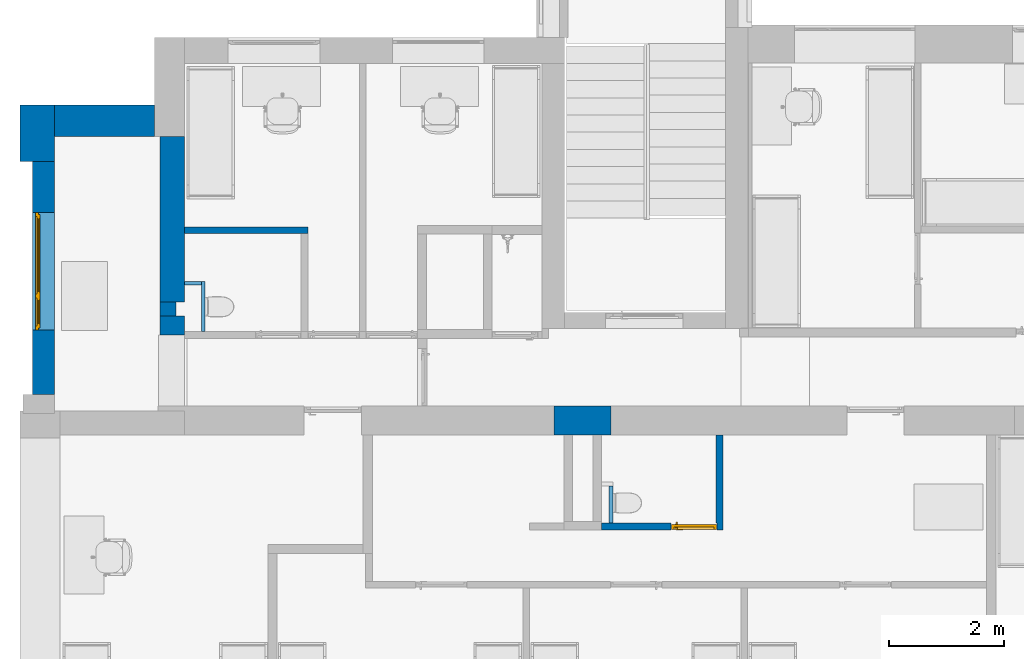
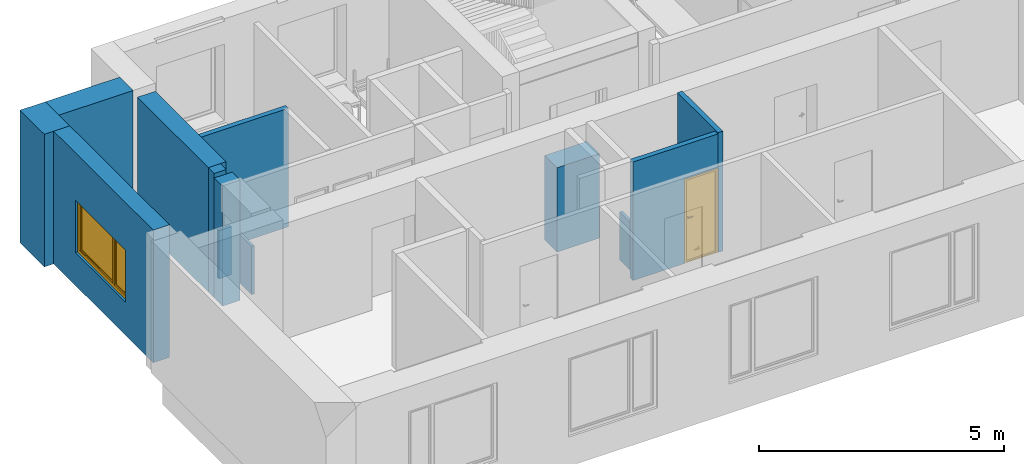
# One storey, part 6 of 46: 13 walls, 1 door, 1 window, 3 openings.
"""IFC2X3 building model written with IfcOpenShell, lengths in millimetres."""

from ifc_helpers import new_model, entity, si_unit, converted_unit, derived_unit, direction, frame, frame_2d, origin, place, context, subcontext, project, spatial, rectangle, extrude, faceted_brep, source, transform, mapped, material, material_list, layer, layer_set, layer_usage, type_object, type_shapes, element, fill, save


model = new_model("IFC2X3")

# Units and contexts
model_context = context("Model", 3, precision=0.01, world=origin(), true_north=direction((6.12303176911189e-17, 1.0)))
body_context = subcontext(model_context, "Body", "Model", "MODEL_VIEW")
ifc_project = project(units=[si_unit("LENGTHUNIT", "METRE", prefix="MILLI"), si_unit("AREAUNIT", "SQUARE_METRE"), si_unit("VOLUMEUNIT", "CUBIC_METRE"), converted_unit("PLANEANGLEUNIT", "DEGREE", entity("IfcRatioMeasure", 0.0174532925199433), si_unit("PLANEANGLEUNIT", "RADIAN"), dimensions=[0, 0, 0, 0, 0, 0, 0]), si_unit("MASSUNIT", "GRAM", prefix="KILO"), derived_unit("MASSDENSITYUNIT", [(si_unit("MASSUNIT", "GRAM", prefix="KILO"), 1), (si_unit("LENGTHUNIT", "METRE"), -3)]), si_unit("TIMEUNIT", "SECOND"), si_unit("FREQUENCYUNIT", "HERTZ"), si_unit("THERMODYNAMICTEMPERATUREUNIT", "DEGREE_CELSIUS"), derived_unit("THERMALTRANSMITTANCEUNIT", [(si_unit("MASSUNIT", "GRAM", prefix="KILO"), 1), (si_unit("THERMODYNAMICTEMPERATUREUNIT", "KELVIN"), -1), (si_unit("TIMEUNIT", "SECOND"), -3)]), derived_unit("VOLUMETRICFLOWRATEUNIT", [(si_unit("LENGTHUNIT", "METRE"), 3), (si_unit("TIMEUNIT", "SECOND"), -1)]), si_unit("ELECTRICCURRENTUNIT", "AMPERE"), si_unit("ELECTRICVOLTAGEUNIT", "VOLT"), si_unit("POWERUNIT", "WATT"), si_unit("FORCEUNIT", "NEWTON", prefix="KILO"), si_unit("ILLUMINANCEUNIT", "LUX"), si_unit("LUMINOUSFLUXUNIT", "LUMEN"), si_unit("LUMINOUSINTENSITYUNIT", "CANDELA"), derived_unit("USERDEFINED", [(si_unit("MASSUNIT", "GRAM", prefix="KILO"), -1), (si_unit("LENGTHUNIT", "METRE"), -2), (si_unit("TIMEUNIT", "SECOND"), 3), (si_unit("LUMINOUSFLUXUNIT", "LUMEN"), 1)]), derived_unit("LINEARVELOCITYUNIT", [(si_unit("LENGTHUNIT", "METRE"), 1), (si_unit("TIMEUNIT", "SECOND"), -1)]), si_unit("PRESSUREUNIT", "PASCAL"), derived_unit("USERDEFINED", [(si_unit("LENGTHUNIT", "METRE"), -2), (si_unit("MASSUNIT", "GRAM", prefix="KILO"), 1), (si_unit("TIMEUNIT", "SECOND"), -2)]), derived_unit("LINEARFORCEUNIT", [(si_unit("MASSUNIT", "GRAM", prefix="KILO"), 1), (si_unit("LENGTHUNIT", "METRE"), 1), (si_unit("TIMEUNIT", "SECOND"), -2), (si_unit("LENGTHUNIT", "METRE"), -1)]), derived_unit("PLANARFORCEUNIT", [(si_unit("MASSUNIT", "GRAM", prefix="KILO"), 1), (si_unit("LENGTHUNIT", "METRE"), 1), (si_unit("TIMEUNIT", "SECOND"), -2), (si_unit("LENGTHUNIT", "METRE"), -2)])], contexts=[model_context])

# Site, building, storey
site_placement = place(None, origin())
site = spatial("IfcSite", under=ifc_project, at=site_placement, Name="Default", CompositionType="ELEMENT")
building_placement = place(site_placement, origin())
building = spatial("IfcBuilding", under=site, at=building_placement, Name="SMA ARH", CompositionType="ELEMENT")
storey_placement = place(building_placement, origin())
storey = spatial("IfcBuildingStorey", under=building, at=storey_placement, Name="1 Korrus", CompositionType="ELEMENT", Elevation=0.0)

# Walls
ifc_material_1 = material(Name="_ol.olev sein")
ifc_layer_1 = layer(ifc_material_1, 550.0)
ifc_layer_set_1 = layer_set([ifc_layer_1], Name="Basic Wall:Generic - 550mm")
ifc_layer_usage_1 = layer_usage(ifc_layer_set_1, "AXIS2", "NEGATIVE", 275.0)
wall_type_1 = type_object("IfcWallType", Name="Basic Wall:Generic - 550mm", PredefinedType="STANDARD", material=ifc_layer_set_1)
wall_1_placement = place(storey_placement, frame((-100.0, 11495.0, 0.0)))
element("IfcWallStandardCase", 1, at=wall_1_placement, inside=storey, type_object=wall_type_1, material=ifc_layer_usage_1, Name="Basic Wall:Generic - 550mm", ObjectType="Basic Wall:Generic - 550mm", context=body_context, shape_type="SweptSolid", body=[
    extrude(rectangle(XDim=1745.00000000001, YDim=550.000000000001, at=frame_2d((872.500000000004, -5.6843418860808e-14), x_axis=(-1.0, 0.0))), origin(), (0.0, 0.0, 1.0), 3299.99999999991),
])
ifc_layer_2 = layer(ifc_material_1, 420.0)
ifc_layer_set_2 = layer_set([ifc_layer_2], Name="Basic Wall:Generic - 420mm")
ifc_layer_usage_2 = layer_usage(ifc_layer_set_2, "AXIS2", "NEGATIVE", 210.0)
wall_type_2 = type_object("IfcWallType", Name="Basic Wall:Generic - 420mm", PredefinedType="STANDARD", material=ifc_layer_set_2)
wall_2_placement = place(storey_placement, frame((1955.0, 11220.0, 0.0), z_axis=(0.0, 0.0, 1.0), x_axis=(0.0, -1.0, 0.0)))
element("IfcWallStandardCase", 2, at=wall_2_placement, inside=storey, type_object=wall_type_2, material=ifc_layer_usage_2, Name="Basic Wall:Generic - 420mm", ObjectType="Basic Wall:Generic - 420mm", context=body_context, shape_type="SweptSolid", body=[
    extrude(rectangle(XDim=2889.99999999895, YDim=420.0, at=frame_2d((1444.99999999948, 2.8421709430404e-14), x_axis=(-1.0, 0.0))), origin(), (0.0, 0.0, 1.0), 3099.99999999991),
])
ifc_layer_usage_3 = layer_usage(ifc_layer_set_2, "AXIS2", "NEGATIVE", 210.0)
wall_3_placement = place(storey_placement, frame((1955.0, 8090.0, 0.0), z_axis=(0.0, 0.0, 1.0), x_axis=(0.0, -1.0, 0.0)))
element("IfcWallStandardCase", 3, at=wall_3_placement, inside=storey, type_object=wall_type_2, material=ifc_layer_usage_3, Name="Basic Wall:Generic - 420mm", ObjectType="Basic Wall:Generic - 420mm", context=body_context, shape_type="SweptSolid", body=[
    extrude(rectangle(XDim=331.999999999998, YDim=420.0, at=frame_2d((165.999999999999, 1.4210854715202e-14), x_axis=(-1.0, 0.0))), origin(), (0.0, 0.0, 1.0), 2989.99999999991),
])
ifc_layer_3 = layer(ifc_material_1, 280.0)
ifc_layer_set_3 = layer_set([ifc_layer_3], Name="Basic Wall:Generic - 280mm")
ifc_layer_usage_4 = layer_usage(ifc_layer_set_3, "AXIS2", "NEGATIVE", 140.0)
wall_type_3 = type_object("IfcWallType", Name="Basic Wall:Generic - 280mm", PredefinedType="STANDARD", material=ifc_layer_set_3)
wall_4_placement = place(storey_placement, frame((1885.0, 8330.0, 0.0), z_axis=(0.0, 0.0, 1.0), x_axis=(0.0, -1.0, 0.0)))
element("IfcWallStandardCase", 4, at=wall_4_placement, inside=storey, type_object=wall_type_3, material=ifc_layer_usage_4, Name="Basic Wall:Generic - 280mm", ObjectType="Basic Wall:Generic - 280mm", context=body_context, shape_type="SweptSolid", body=[
    extrude(rectangle(XDim=240.000000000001, YDim=280.0, at=frame_2d((120.0, -7.105427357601e-14), x_axis=(-1.0, 0.0))), origin(), (0.0, 0.0, 1.0), 3099.99999999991),
])
ifc_layer_4 = layer(ifc_material_1, 600.0)
ifc_layer_set_4 = layer_set([ifc_layer_4], Name="Basic Wall:Generic - 600mm")
ifc_layer_usage_5 = layer_usage(ifc_layer_set_4, "AXIS2", "NEGATIVE", 300.0)
wall_type_4 = type_object("IfcWallType", Name="Basic Wall:Generic - 600mm", PredefinedType="STANDARD", material=ifc_layer_set_4)
wall_5_placement = place(storey_placement, frame((-400.0, 10780.0, 0.0), z_axis=(0.0, 0.0, 1.0), x_axis=(0.0, 1.0, 0.0)))
element("IfcWallStandardCase", 5, at=wall_5_placement, inside=storey, type_object=wall_type_4, material=ifc_layer_usage_5, Name="Basic Wall:Generic - 600mm", ObjectType="Basic Wall:Generic - 600mm", context=body_context, shape_type="SweptSolid", body=[
    extrude(rectangle(XDim=990.0, YDim=600.0, at=frame_2d((495.0, 2.8421709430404e-14), x_axis=(-1.0, 0.0))), origin(), (0.0, 0.0, 1.0), 3299.99999999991),
])

# Wall, opening, window
ifc_layer_5 = layer(ifc_material_1, 380.0)
ifc_layer_set_5 = layer_set([ifc_layer_5], Name="Basic Wall:Generic - 380mm")
ifc_layer_usage_6 = layer_usage(ifc_layer_set_5, "AXIS2", "NEGATIVE", 190.0)
wall_type_5 = type_object("IfcWallType", Name="Basic Wall:Generic - 380mm", PredefinedType="STANDARD", material=ifc_layer_set_5)
wall_6_placement = place(storey_placement, frame((-290.0, 6720.0, 0.0), z_axis=(0.0, 0.0, 1.0), x_axis=(0.0, 1.0, 0.0)))
wall_6 = element("IfcWallStandardCase", 6, at=wall_6_placement, inside=storey, type_object=wall_type_5, material=ifc_layer_usage_6, Name="Basic Wall:Generic - 380mm", ObjectType="Basic Wall:Generic - 380mm", context=body_context, shape_type="SweptSolid", body=[
    extrude(rectangle(XDim=4060.0, YDim=380.0, at=frame_2d((2030.0, 0.0), x_axis=(-1.0, 0.0))), origin(), (0.0, 0.0, 1.0), 3299.99999999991),
])
opening_1_placement = place(wall_6_placement, frame((1125.0, -190.0, 820.0)))
opening_1 = element("IfcOpeningElement", 7, at=opening_1_placement, cuts=wall_6, Name="SMA_W2, 2-jaotus:A-00 - 2100x1300:1", ObjectType="Opening", context=body_context, shape_type="SweptSolid", body=[
    extrude(rectangle(XDim=1300.0, YDim=2050.0, at=frame_2d((650.0, 1025.0), x_axis=(1.0, 0.0))), frame((0.0, 0.0, 0.0), z_axis=(0.0, 1.0, 0.0), x_axis=(0.0, 0.0, 1.0)), (0.0, 0.0, 1.0), 380.0),
])
ifc_material_2 = material(Name="Glass")
ifc_material_3 = material(Name="Hall")
ifc_material_list_1 = material_list([ifc_material_2, ifc_material_3])
ifc_material_4 = material(Name="<Unnamed>")
ifc_material_list_2 = material_list([ifc_material_4, ifc_material_3, ifc_material_2, ifc_material_4, ifc_material_3])
window_style = type_object("IfcWindowStyle", Name="SMA_W2, 2-jaotus:A-00 - 2100x1300", ConstructionType="NOTDEFINED", OperationType="NOTDEFINED", ParameterTakesPrecedence=False, Sizeable=False, material=ifc_material_list_2)
shared_shape_1 = source(origin(), body_context, "Body", "Brep", [
    faceted_brep([(1945.0, 270.0, 1195.0), (660.0, 270.0, 1195.0), (660.0, 270.0, 105.0), (1945.0, 270.0, 105.0), (1945.0, 290.0, 105.0), (1945.0, 290.0, 1195.0), (660.0, 290.0, 105.0), (660.0, 290.0, 1195.0)], [[[0, 1, 2, 3]], [[3, 4, 5, 0]], [[2, 6, 4, 3]], [[1, 7, 6, 2]], [[5, 4, 6, 7]], [[0, 5, 7, 1]]]),
    faceted_brep([(520.0, 270.0, 105.0), (520.0, 270.0, 1195.0), (105.0, 270.0, 1195.0), (105.0, 270.0, 105.0), (105.0, 290.0, 105.0), (520.0, 290.0, 105.0), (105.0, 290.0, 1195.0), (520.0, 290.0, 1195.0)], [[[0, 1, 2, 3]], [[3, 4, 5, 0]], [[2, 6, 4, 3]], [[0, 5, 7, 1]], [[5, 4, 6, 7]], [[1, 7, 6, 2]]]),
    faceted_brep([(2015.0, 255.0, 35.0), (2015.0, 255.0, 1265.0), (590.0, 255.0, 1265.0), (590.0, 255.0, 35.0), (660.0, 255.0, 1195.0), (1945.0, 255.0, 1195.0), (1945.0, 255.0, 105.0), (660.0, 255.0, 105.0), (590.0, 305.0, 35.0), (2015.0, 305.0, 35.0), (590.0, 305.0, 1265.0), (2015.0, 305.0, 1265.0), (660.0, 305.0, 105.0), (660.0, 305.0, 1195.0), (1945.0, 305.0, 105.0), (1945.0, 305.0, 1195.0)], [[[0, 1, 2, 3], [4, 5, 6, 7]], [[3, 8, 9, 0]], [[2, 10, 8, 3]], [[0, 9, 11, 1]], [[7, 12, 13, 4]], [[6, 14, 12, 7]], [[5, 15, 14, 6]], [[9, 8, 10, 11], [13, 12, 14, 15]], [[1, 11, 10, 2]], [[4, 13, 15, 5]]]),
    faceted_brep([(590.0, 255.0, 35.0), (590.0, 255.0, 1265.0), (35.0, 255.0, 1265.0), (35.0, 255.0, 35.0), (105.0, 255.0, 1195.0), (520.0, 255.0, 1195.0), (520.0, 255.0, 105.0), (105.0, 255.0, 105.0), (35.0, 305.0, 35.0), (590.0, 305.0, 35.0), (35.0, 305.0, 1265.0), (590.0, 305.0, 1265.0), (105.0, 305.0, 105.0), (105.0, 305.0, 1195.0), (520.0, 305.0, 105.0), (520.0, 305.0, 1195.0)], [[[0, 1, 2, 3], [4, 5, 6, 7]], [[3, 8, 9, 0]], [[2, 10, 8, 3]], [[0, 9, 11, 1]], [[7, 12, 13, 4]], [[6, 14, 12, 7]], [[5, 15, 14, 6]], [[9, 8, 10, 11], [13, 12, 14, 15]], [[1, 11, 10, 2]], [[4, 13, 15, 5]]]),
    faceted_brep([(35.0, 280.0, 35.0), (35.0, 280.0, 1265.0), (590.0, 280.0, 1265.0), (590.0, 280.0, 35.0), (1980.0, 280.0, 1230.0), (1980.0, 280.0, 70.0), (625.0, 280.0, 70.0), (625.0, 280.0, 1230.0), (2050.0, 280.0, 0.0), (2050.0, 280.0, 1300.0), (0.0, 280.0, 1300.0), (0.0, 280.0, 0.0), (0.0, 330.0, 0.0), (2050.0, 330.0, 0.0), (0.0, 330.0, 1300.0), (2050.0, 330.0, 1300.0), (625.0, 330.0, 70.0), (625.0, 330.0, 1230.0), (1980.0, 330.0, 70.0), (1980.0, 330.0, 1230.0), (35.0, 305.0, 35.0), (590.0, 305.0, 35.0), (590.0, 305.0, 1265.0), (35.0, 305.0, 1265.0), (555.0, 330.0, 1230.0), (70.0, 330.0, 1230.0), (70.0, 330.0, 70.0), (555.0, 330.0, 70.0), (555.0, 305.0, 70.0), (555.0, 305.0, 1230.0), (70.0, 305.0, 70.0), (70.0, 305.0, 1230.0)], [[[0, 1, 2, 3], [4, 5, 6, 7], [8, 9, 10, 11]], [[11, 12, 13, 8]], [[10, 14, 12, 11]], [[8, 13, 15, 9]], [[6, 16, 17, 7]], [[5, 18, 16, 6]], [[4, 19, 18, 5]], [[20, 0, 3, 21]], [[21, 3, 2, 22]], [[23, 1, 0, 20]], [[13, 12, 14, 15], [24, 25, 26, 27], [19, 17, 16, 18]], [[27, 28, 29, 24]], [[26, 30, 28, 27]], [[25, 31, 30, 26]], [[21, 22, 23, 20], [29, 28, 30, 31]], [[9, 15, 14, 10]], [[24, 29, 31, 25]], [[7, 17, 19, 4]], [[22, 2, 1, 23]]], outer=[[False, False, True], [True], [True], [True], [True], [True], [True], [True], [True], [True], [True, False, False], [True], [True], [True], [True, False], [True], [True], [True], [True]]),
])
type_shapes(window_style, [shared_shape_1])
window_placement = place(opening_1_placement, origin())
window = element("IfcWindow", 8, at=window_placement, inside=storey, type_object=window_style, material=ifc_material_list_1, Name="SMA_W2, 2-jaotus:A-00 - 2100x1300", ObjectType="SMA_W2, 2-jaotus:A-00 - 2100x1300", OverallHeight=1300.0, OverallWidth=2050.0, context=body_context, shape_type="MappedRepresentation", body=[
    mapped(shared_shape_1, transform((0.0, 0.0, 0.0), scale=1.0)),
])
fill(opening_1, window)

# Wall
ifc_material_5 = material(Name="EST. Ehitusplaat. Kipsplaat")
ifc_layer_6 = layer(ifc_material_5, 12.5)
ifc_layer_7 = layer(ifc_material_5, 12.5)
ifc_material_6 = material(Name="EST. Soojustus. Mineraalvill. Default")
ifc_layer_8 = layer(ifc_material_6, 66.0)
ifc_layer_9 = layer(ifc_material_5, 12.5)
ifc_layer_10 = layer(ifc_material_5, 12.5)
ifc_layer_set_6 = layer_set([ifc_layer_6, ifc_layer_7, ifc_layer_8, ifc_layer_9, ifc_layer_10], Name="Basic Wall:SS-05_Kips, 66mm metallkarkass")
ifc_layer_usage_7 = layer_usage(ifc_layer_set_6, "AXIS2", "NEGATIVE", 58.0)
wall_type_6 = type_object("IfcWallType", Name="Basic Wall:SS-05_Kips, 66mm metallkarkass", PredefinedType="STANDARD", material=ifc_layer_set_6)
wall_7_placement = place(storey_placement, frame((2165.0, 9585.50000000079, 0.0)))
element("IfcWallStandardCase", 9, at=wall_7_placement, inside=storey, type_object=wall_type_6, material=ifc_layer_usage_7, Name="Basic Wall:SS-05_Kips, 66mm metallkarkass", ObjectType="Basic Wall:SS-05_Kips, 66mm metallkarkass", context=body_context, shape_type="SweptSolid", body=[
    extrude(rectangle(XDim=2154.32130046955, YDim=116.0, at=frame_2d((1077.16065023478, 1.77635683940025e-13), x_axis=(-1.0, 0.0))), origin(), (0.0, 0.0, 1.0), 2949.99999999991),
])

# Wall, opening, door
ifc_layer_11 = layer(ifc_material_5, 12.5)
ifc_layer_12 = layer(ifc_material_5, 12.5)
ifc_material_7 = material(Name="EST. Õhkvahe. Roov. Kipsplaadi alusroov. Vertikaalne")
ifc_layer_13 = layer(ifc_material_7, 66.0)
ifc_layer_14 = layer(ifc_material_5, 12.5)
ifc_layer_15 = layer(ifc_material_5, 12.5)
ifc_layer_set_7 = layer_set([ifc_layer_11, ifc_layer_12, ifc_layer_13, ifc_layer_14, ifc_layer_15], Name="Basic Wall:SS-03_Kips, 66mm metallkarkass")
ifc_layer_usage_8 = layer_usage(ifc_layer_set_7, "AXIS2", "NEGATIVE", 58.0)
wall_type_7 = type_object("IfcWallType", Name="Basic Wall:SS-03_Kips, 66mm metallkarkass", PredefinedType="STANDARD", material=ifc_layer_set_7)
wall_8_placement = place(storey_placement, frame((9440.0, 4418.0, 0.0)))
wall_8 = element("IfcWallStandardCase", 10, at=wall_8_placement, inside=storey, type_object=wall_type_7, material=ifc_layer_usage_8, Name="Basic Wall:SS-03_Kips, 66mm metallkarkass", ObjectType="Basic Wall:SS-03_Kips, 66mm metallkarkass", context=body_context, shape_type="SweptSolid", body=[
    extrude(rectangle(XDim=2002.00000000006, YDim=116.0, at=frame_2d((1001.00000000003, 9.2370555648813e-14), x_axis=(-1.0, 0.0))), origin(), (0.0, 0.0, 1.0), 2949.99999999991),
])
opening_2_placement = place(wall_8_placement, frame((1214.50000000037, -58.0, 0.0)))
opening_2 = element("IfcOpeningElement", 11, at=opening_2_placement, cuts=wall_8, Name="SMA_D01, 1-poolne:SU-P-06 - 800x2100 DUŠŠ:1", ObjectType="Opening", context=body_context, shape_type="SweptSolid", body=[
    extrude(rectangle(XDim=2099.99999999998, YDim=800.0, at=frame_2d((1049.99999999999, 400.0), x_axis=(1.0, 0.0))), frame((0.0, 0.0, 0.0), z_axis=(0.0, 1.0, 0.0), x_axis=(0.0, 0.0, 1.0)), (0.0, 0.0, 1.0), 116.0),
])
ifc_material_8 = material(Name="EST. Metall. Alumiinium. Värvitud. RAL7023 (Concrete grey)")
ifc_material_9 = material(Name="EST. Klaas. 3x. Default")
ifc_material_list_3 = material_list([ifc_material_8, ifc_material_8, ifc_material_4, ifc_material_9, ifc_material_4, ifc_material_8, ifc_material_4])
door_style = type_object("IfcDoorStyle", Name="SMA_D01, 1-poolne:SU-P-06 - 800x2100 DUŠŠ", ConstructionType="NOTDEFINED", OperationType="SINGLE_SWING_RIGHT", ParameterTakesPrecedence=False, Sizeable=False, material=ifc_material_list_3)
shared_shape_2 = source(origin(), body_context, "Body", "Brep", [
    faceted_brep([(110.0, 6.0, 1112.5), (110.0, 44.0, 1112.5), (85.0, 44.0, 1112.5), (85.0, 1.0, 1112.5), (205.0, 1.0, 1112.5), (205.0, 6.0, 1112.5), (110.0, 6.0, 1087.5), (205.0, 6.0, 1087.5), (205.0, 1.0, 1087.5), (85.0, 1.0, 1087.5), (85.0, 44.0, 1087.5), (110.0, 44.0, 1087.5)], [[[0, 1, 2, 3, 4, 5]], [[6, 7, 8, 9, 10, 11]], [[1, 0, 6, 11]], [[2, 1, 11, 10]], [[3, 2, 10, 9]], [[4, 3, 9, 8]], [[5, 4, 8, 7]], [[0, 5, 7, 6]]]),
    faceted_brep([(122.5, 44.0, 1137.5), (122.5, 46.0, 1137.5), (72.4999999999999, 46.0, 1137.5), (72.4999999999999, 44.0, 1137.5), (122.5, 44.0, 1017.5), (72.4999999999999, 44.0, 1017.5), (72.4999999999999, 46.0, 1017.5), (122.5, 46.0, 1017.5)], [[[0, 1, 2, 3]], [[4, 5, 6, 7]], [[1, 0, 4, 7]], [[2, 1, 7, 6]], [[3, 2, 6, 5]], [[0, 3, 5, 4]]]),
    faceted_brep([(110.0, 136.0, 1112.5), (205.0, 136.0, 1112.5), (205.0, 141.0, 1112.5), (85.0, 141.0, 1112.5), (85.0, 98.0, 1112.5), (110.0, 98.0, 1112.5), (110.0, 136.0, 1087.5), (110.0, 98.0, 1087.5), (85.0, 98.0, 1087.5), (85.0, 141.0, 1087.5), (205.0, 141.0, 1087.5), (205.0, 136.0, 1087.5)], [[[0, 1, 2, 3, 4, 5]], [[6, 7, 8, 9, 10, 11]], [[5, 7, 6, 0]], [[4, 8, 7, 5]], [[3, 9, 8, 4]], [[2, 10, 9, 3]], [[1, 11, 10, 2]], [[0, 6, 11, 1]]]),
    faceted_brep([(122.5, 98.0, 1137.5), (72.4999999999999, 98.0, 1137.5), (72.4999999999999, 96.0, 1137.5), (122.5, 96.0, 1137.5), (122.5, 98.0, 1017.5), (122.5, 96.0, 1017.5), (72.4999999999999, 96.0, 1017.5), (72.4999999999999, 98.0, 1017.5)], [[[0, 1, 2, 3]], [[4, 5, 6, 7]], [[3, 5, 4, 0]], [[2, 6, 5, 3]], [[1, 7, 6, 2]], [[0, 4, 7, 1]]]),
    faceted_brep([(750.0, 6.0, 30.0), (750.0, 6.0, 0.0), (750.0, 46.0, 0.0), (750.0, 46.0, 20.0), (750.0, 46.0, 30.0), (50.0, 6.0, 30.0), (50.0, 46.0, 30.0), (50.0, 46.0, 20.0), (50.0, 46.0, 0.0), (50.0, 6.0, 0.0), (35.0, 46.0, 0.0), (35.0, 96.0, 0.0), (765.0, 96.0, 0.0), (765.0, 46.0, 0.0), (765.0, 96.0, 20.0), (765.0, 46.0, 20.0), (35.0, 96.0, 20.0), (35.0, 46.0, 20.0)], [[[0, 1, 2, 3, 4]], [[5, 6, 7, 8, 9]], [[1, 0, 5, 9]], [[2, 1, 9, 8, 10, 11, 12, 13]], [[6, 4, 3, 7]], [[0, 4, 6, 5]], [[14, 15, 13, 12]], [[16, 11, 10, 17]], [[15, 14, 16, 17, 7, 3]], [[13, 15, 3, 2]], [[14, 12, 11, 16]], [[17, 10, 8, 7]]]),
    faceted_brep([(790.0, 6.0, 0.0), (750.0, 6.0, 0.0), (750.0, 46.0, 0.0), (765.0, 46.0, 0.0), (765.0, 96.0, 0.0), (790.0, 96.0, 0.0), (790.0, 6.0, 2090.0), (10.0, 6.0, 2090.0), (10.0, 6.0, 0.0), (50.0, 6.0, 0.0), (50.0, 6.0, 2050.0), (750.0, 6.0, 2050.0), (750.0, 46.0, 2050.0), (50.0, 46.0, 2050.0), (50.0, 46.0, 0.0), (35.0, 46.0, 0.0), (35.0, 46.0, 2065.0), (765.0, 46.0, 2065.0), (765.0, 96.0, 2065.0), (35.0, 96.0, 2065.0), (35.0, 96.0, 0.0), (10.0, 96.0, 0.0), (10.0, 96.0, 2090.0), (790.0, 96.0, 2090.0)], [[[0, 1, 2, 3, 4, 5]], [[1, 0, 6, 7, 8, 9, 10, 11]], [[2, 1, 11, 12]], [[3, 2, 12, 13, 14, 15, 16, 17]], [[4, 3, 17, 18]], [[5, 4, 18, 19, 20, 21, 22, 23]], [[0, 5, 23, 6]], [[8, 7, 22, 21]], [[9, 8, 21, 20, 15, 14]], [[10, 9, 14, 13]], [[16, 15, 20, 19]], [[11, 10, 13, 12]], [[17, 16, 19, 18]], [[7, 6, 23, 22]]]),
    faceted_brep([(35.0, 46.0, 2065.0), (35.0, 46.0, 20.0), (765.0, 46.0, 20.0), (765.0, 46.0, 2065.0), (35.0, 96.0, 2065.0), (765.0, 96.0, 2065.0), (765.0, 96.0, 20.0), (35.0, 96.0, 20.0)], [[[0, 1, 2, 3]], [[4, 5, 6, 7]], [[1, 0, 4, 7]], [[2, 1, 7, 6]], [[3, 2, 6, 5]], [[0, 3, 5, 4]]]),
])
type_shapes(door_style, [shared_shape_2])
door_placement = place(opening_2_placement, origin())
door = element("IfcDoor", 12, at=door_placement, inside=storey, type_object=door_style, material=ifc_material_8, Name="SMA_D01, 1-poolne:SU-P-06 - 800x2100 DUŠŠ", ObjectType="SMA_D01, 1-poolne:SU-P-06 - 800x2100 DUŠŠ", OverallHeight=2099.99999999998, OverallWidth=800.0, context=body_context, shape_type="MappedRepresentation", body=[
    mapped(shared_shape_2, transform((0.0, 0.0, 0.0), scale=1.0)),
])
fill(opening_2, door)

# Wall, opening
ifc_layer_usage_9 = layer_usage(ifc_layer_set_7, "AXIS2", "NEGATIVE", 58.0)
wall_9_placement = place(storey_placement, frame((11500.0, 6010.0, 0.0), z_axis=(0.0, 0.0, 1.0), x_axis=(0.0, -1.0, 0.0)))
wall_9 = element("IfcWallStandardCase", 13, at=wall_9_placement, inside=storey, type_object=wall_type_7, material=ifc_layer_usage_9, Name="Basic Wall:SS-03_Kips, 66mm metallkarkass", ObjectType="Basic Wall:SS-03_Kips, 66mm metallkarkass", context=body_context, shape_type="SweptSolid", body=[
    extrude(rectangle(XDim=1650.00000000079, YDim=116.0, at=frame_2d((825.000000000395, 3.90798504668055e-14), x_axis=(-1.0, 0.0))), origin(), (0.0, 0.0, 1.0), 2979.99999999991),
])
opening_3_placement = place(wall_9_placement, origin())
element("IfcOpeningElement", 14, at=opening_3_placement, cuts=wall_9, Name="Basic Wall:SS-03_Kips, 66mm metallkarkass", ObjectType="Opening", context=body_context, shape_type="SweptSolid", body=[
    extrude(rectangle(XDim=2099.99999999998, YDim=116.0, at=frame_2d((-2.70006239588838e-13, 0.0), x_axis=(0.0, 1.0))), frame((1592.0, -845.500000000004, 1050.0), z_axis=(0.0, 1.0, 0.0), x_axis=(-1.0, 0.0, 0.0)), (0.0, 0.0, 1.0), 800.0),
])

# Walls
ifc_material_10 = material(Name="EST. Põrand. Plaatkate")
ifc_layer_16 = layer(ifc_material_10, 10.0)
ifc_layer_17 = layer(ifc_material_5, 12.5)
ifc_layer_18 = layer(ifc_material_7, 42.0)
ifc_layer_set_8 = layer_set([ifc_layer_16, ifc_layer_17, ifc_layer_18], Name="Basic Wall:SS-04 - loputuskast")
ifc_layer_usage_10 = layer_usage(ifc_layer_set_8, "AXIS2", "POSITIVE", -32.25)
wall_type_8 = type_object("IfcWallType", Name="Basic Wall:SS-04 - loputuskast", PredefinedType="STANDARD", material=ifc_layer_set_8)
wall_10_placement = place(storey_placement, frame((9607.75000000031, 4476.0, 0.0), z_axis=(0.0, 0.0, 1.0), x_axis=(0.0, 1.0, 0.0)))
element("IfcWallStandardCase", 15, at=wall_10_placement, inside=storey, type_object=wall_type_8, material=ifc_layer_usage_10, Name="Basic Wall:SS-04 - loputuskast", ObjectType="Basic Wall:SS-04 - loputuskast", context=body_context, shape_type="SweptSolid", body=[
    extrude(rectangle(XDim=652.500000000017, YDim=64.5000000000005, at=frame_2d((326.250000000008, 0.0), x_axis=(-1.0, 0.0))), origin(), (0.0, 0.0, 1.0), 1200.0),
])
ifc_layer_usage_11 = layer_usage(ifc_layer_set_8, "AXIS2", "POSITIVE", -32.25)
wall_11_placement = place(storey_placement, frame((2165.0, 8662.75000000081, 0.0)))
element("IfcWallStandardCase", 16, at=wall_11_placement, inside=storey, type_object=wall_type_8, material=ifc_layer_usage_11, Name="Basic Wall:SS-04 - loputuskast", ObjectType="Basic Wall:SS-04 - loputuskast", context=body_context, shape_type="SweptSolid", body=[
    extrude(rectangle(XDim=300.000000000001, YDim=64.5000000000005, at=frame_2d((150.0, -3.09086090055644e-13), x_axis=(-1.0, 0.0))), origin(), (0.0, 0.0, 1.0), 1200.0),
])
ifc_layer_usage_12 = layer_usage(ifc_layer_set_8, "AXIS2", "POSITIVE", -32.25)
wall_12_placement = place(storey_placement, frame((2497.25000000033, 7816.0, 0.0), z_axis=(0.0, 0.0, 1.0), x_axis=(0.0, 1.0, 0.0)))
element("IfcWallStandardCase", 17, at=wall_12_placement, inside=storey, type_object=wall_type_8, material=ifc_layer_usage_12, Name="Basic Wall:SS-04 - loputuskast", ObjectType="Basic Wall:SS-04 - loputuskast", context=body_context, shape_type="SweptSolid", body=[
    extrude(rectangle(XDim=879.000000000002, YDim=64.5000000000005, at=frame_2d((439.500000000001, -2.8421709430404e-14), x_axis=(-1.0, 0.0))), origin(), (0.0, 0.0, 1.0), 1200.0),
])
ifc_material_11 = material(Name="EST. Müüritis. Väikeplokk. Kergkruusplokk")
ifc_layer_19 = layer(ifc_material_11, 510.0)
ifc_layer_set_9 = layer_set([ifc_layer_19], Name="Basic Wall:SS-03_Fibo 510mm kinnilaotav ava")
ifc_layer_usage_13 = layer_usage(ifc_layer_set_9, "AXIS2", "NEGATIVE", 255.0)
wall_type_9 = type_object("IfcWallType", Name="Basic Wall:SS-03_Fibo 510mm kinnilaotav ava", PredefinedType="STANDARD", material=ifc_layer_set_9)
wall_13_placement = place(storey_placement, frame((8610.0, 6265.0, 0.0)))
element("IfcWallStandardCase", 18, at=wall_13_placement, inside=storey, type_object=wall_type_9, material=ifc_layer_usage_13, Name="Basic Wall:SS-03_Fibo 510mm kinnilaotav ava", ObjectType="Basic Wall:SS-03_Fibo 510mm kinnilaotav ava", context=body_context, shape_type="SweptSolid", body=[
    extrude(rectangle(XDim=999.999999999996, YDim=510.000000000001, at=frame_2d((499.999999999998, 0.0), x_axis=(-1.0, 0.0))), origin(), (0.0, 0.0, 1.0), 2099.99999999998),
])

save(model, "model.ifc")
